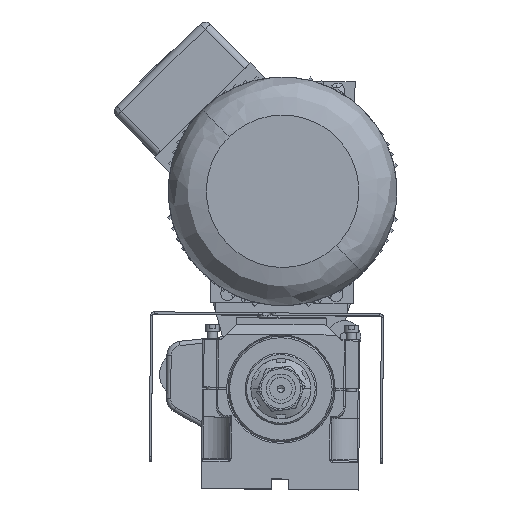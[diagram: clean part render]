
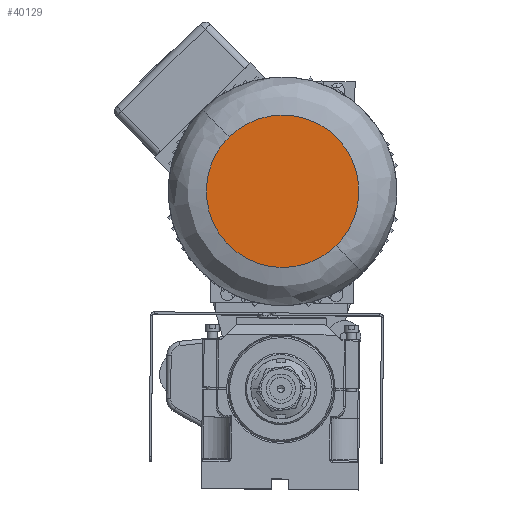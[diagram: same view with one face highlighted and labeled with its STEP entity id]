
A CAD part, top view. The second image highlights one B-rep face of the part: STEP entity #40129.
In plain terms, the highlighted planar face has unit normal (0, 0, 1) as drawn and (0, 1, 0) by its records, which use the part's own axes.
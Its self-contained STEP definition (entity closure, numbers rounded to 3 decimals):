
#763 = CARTESIAN_POINT ( 'NONE',  ( 0., 201., 0. ) ) ;
#3058 = CARTESIAN_POINT ( 'NONE',  ( -106.667, 201., -53.333 ) ) ;
#4760 = CARTESIAN_POINT ( 'NONE',  ( 0., 201., -53.333 ) ) ;
#5072 = EDGE_LOOP ( 'NONE', ( #29459, #34637 ) ) ;
#5674 = DIRECTION ( 'NONE',  ( 0., 0., 1. ) ) ;
#10179 = DIRECTION ( 'NONE',  ( 0., 1., 0. ) ) ;
#10225 = EDGE_CURVE ( 'NONE', #40500, #51581, #42953, .T. ) ;
#10972 = CARTESIAN_POINT ( 'NONE',  ( 0., 201., 53.333 ) ) ;
#23297 = EDGE_CURVE ( 'NONE', #51581, #40500, #53094, .T. ) ;
#29459 = ORIENTED_EDGE ( 'NONE', *, *, #10225, .F. ) ;
#30640 = CARTESIAN_POINT ( 'NONE',  ( -106.667, 201., 53.333 ) ) ;
#34351 = AXIS2_PLACEMENT_3D ( 'NONE', #763, #10179, #5674 ) ;
#34637 = ORIENTED_EDGE ( 'NONE', *, *, #23297, .F. ) ;
#35683 = CARTESIAN_POINT ( 'NONE',  ( 0., 201., 53.333 ) ) ;
#40129 = ADVANCED_FACE ( 'NONE', ( #46681 ), #43791, .T. ) ;
#40500 = VERTEX_POINT ( 'NONE', #41843 ) ;
#41843 = CARTESIAN_POINT ( 'NONE',  ( 0., 201., 53.333 ) ) ;
#42953 =( BOUNDED_CURVE ( )  B_SPLINE_CURVE ( 3, ( #35683, #30640, #3058, #4760 ),
 .UNSPECIFIED., .F., .F. ) 
 B_SPLINE_CURVE_WITH_KNOTS ( ( 4, 4 ),
 ( 0., 0.5 ),
 .UNSPECIFIED. ) 
 CURVE ( )  GEOMETRIC_REPRESENTATION_ITEM ( )  RATIONAL_B_SPLINE_CURVE ( ( 1., 0.333, 0.333, 1. ) ) 
 REPRESENTATION_ITEM ( '' )  );
#43791 = PLANE ( 'NONE',  #34351 ) ;
#45175 = CARTESIAN_POINT ( 'NONE',  ( 0., 201., -53.333 ) ) ;
#46681 = FACE_OUTER_BOUND ( 'NONE', #5072, .T. ) ;
#49579 = CARTESIAN_POINT ( 'NONE',  ( 106.667, 201., -53.333 ) ) ;
#51581 = VERTEX_POINT ( 'NONE', #45175 ) ;
#53094 =( BOUNDED_CURVE ( )  B_SPLINE_CURVE ( 3, ( #54254, #49579, #53892, #10972 ),
 .UNSPECIFIED., .F., .F. ) 
 B_SPLINE_CURVE_WITH_KNOTS ( ( 4, 4 ),
 ( 0.5, 1. ),
 .UNSPECIFIED. ) 
 CURVE ( )  GEOMETRIC_REPRESENTATION_ITEM ( )  RATIONAL_B_SPLINE_CURVE ( ( 1., 0.333, 0.333, 1. ) ) 
 REPRESENTATION_ITEM ( '' )  );
#53892 = CARTESIAN_POINT ( 'NONE',  ( 106.667, 201., 53.333 ) ) ;
#54254 = CARTESIAN_POINT ( 'NONE',  ( 0., 201., -53.333 ) ) ;
